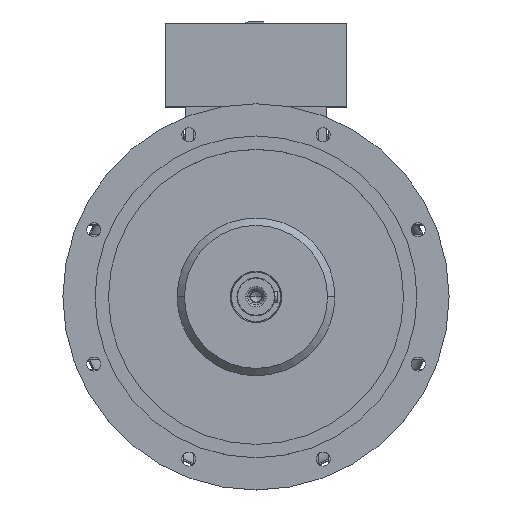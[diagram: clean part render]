
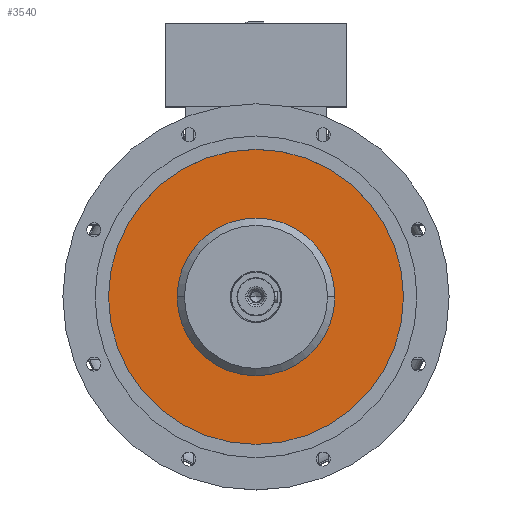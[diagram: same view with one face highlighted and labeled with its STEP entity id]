
A CAD part, top view. The second image highlights one B-rep face of the part: STEP entity #3540.
In plain terms, the highlighted planar face has unit normal (0, 0, 1).
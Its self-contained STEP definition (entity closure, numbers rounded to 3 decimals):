
#565 = CIRCLE ( 'NONE', #20278, 252.083 ) ;
#1307 = ORIENTED_EDGE ( 'NONE', *, *, #7044, .T. ) ;
#2572 = CARTESIAN_POINT ( 'NONE',  ( 0., 0., 455.4 ) ) ;
#3540 = ADVANCED_FACE ( 'NONE', ( #9615, #14011 ), #17940, .T. ) ;
#3618 = DIRECTION ( 'NONE',  ( -1., 0., 0. ) ) ;
#3816 = AXIS2_PLACEMENT_3D ( 'NONE', #21881, #6910, #6662 ) ;
#3880 = AXIS2_PLACEMENT_3D ( 'NONE', #9173, #22164, #12865 ) ;
#4166 = VERTEX_POINT ( 'NONE', #7451 ) ;
#5127 = CARTESIAN_POINT ( 'NONE',  ( 0., 0., 455.4 ) ) ;
#5137 = CIRCLE ( 'NONE', #3880, 134.8 ) ;
#6662 = DIRECTION ( 'NONE',  ( 1., 0., 0. ) ) ;
#6910 = DIRECTION ( 'NONE',  ( 0., 0., 1. ) ) ;
#7044 = EDGE_CURVE ( 'NONE', #20695, #23007, #565, .T. ) ;
#7451 = CARTESIAN_POINT ( 'NONE',  ( 134.8, 0., 455.4 ) ) ;
#7493 = AXIS2_PLACEMENT_3D ( 'NONE', #2572, #15794, #11744 ) ;
#7597 = CARTESIAN_POINT ( 'NONE',  ( 0., 0., 455.4 ) ) ;
#7689 = CARTESIAN_POINT ( 'NONE',  ( 252.083, 0., 455.4 ) ) ;
#7761 = DIRECTION ( 'NONE',  ( 0., 0., 1. ) ) ;
#9173 = CARTESIAN_POINT ( 'NONE',  ( 0., 0., 455.4 ) ) ;
#9523 = CARTESIAN_POINT ( 'NONE',  ( -134.8, 0., 455.4 ) ) ;
#9615 = FACE_BOUND ( 'NONE', #19681, .T. ) ;
#10965 = CARTESIAN_POINT ( 'NONE',  ( -252.083, 0., 455.4 ) ) ;
#11130 = EDGE_CURVE ( 'NONE', #4166, #13396, #22897, .T. ) ;
#11744 = DIRECTION ( 'NONE',  ( -1., 0., 0. ) ) ;
#12865 = DIRECTION ( 'NONE',  ( -1., 0., 0. ) ) ;
#13396 = VERTEX_POINT ( 'NONE', #9523 ) ;
#13781 = AXIS2_PLACEMENT_3D ( 'NONE', #5127, #22170, #21994 ) ;
#14011 = FACE_OUTER_BOUND ( 'NONE', #15868, .T. ) ;
#14146 = ORIENTED_EDGE ( 'NONE', *, *, #14798, .T. ) ;
#14165 = CIRCLE ( 'NONE', #7493, 252.083 ) ;
#14798 = EDGE_CURVE ( 'NONE', #23007, #20695, #14165, .T. ) ;
#15794 = DIRECTION ( 'NONE',  ( 0., 0., 1. ) ) ;
#15868 = EDGE_LOOP ( 'NONE', ( #1307, #14146 ) ) ;
#16551 = ORIENTED_EDGE ( 'NONE', *, *, #24422, .T. ) ;
#17940 = PLANE ( 'NONE',  #3816 ) ;
#19681 = EDGE_LOOP ( 'NONE', ( #16551, #22452 ) ) ;
#20278 = AXIS2_PLACEMENT_3D ( 'NONE', #7597, #7761, #3618 ) ;
#20695 = VERTEX_POINT ( 'NONE', #10965 ) ;
#21881 = CARTESIAN_POINT ( 'NONE',  ( 0., 252.083, 455.4 ) ) ;
#21994 = DIRECTION ( 'NONE',  ( -1., 0., 0. ) ) ;
#22164 = DIRECTION ( 'NONE',  ( 0., 0., -1. ) ) ;
#22170 = DIRECTION ( 'NONE',  ( 0., 0., -1. ) ) ;
#22452 = ORIENTED_EDGE ( 'NONE', *, *, #11130, .T. ) ;
#22897 = CIRCLE ( 'NONE', #13781, 134.8 ) ;
#23007 = VERTEX_POINT ( 'NONE', #7689 ) ;
#24422 = EDGE_CURVE ( 'NONE', #13396, #4166, #5137, .T. ) ;
